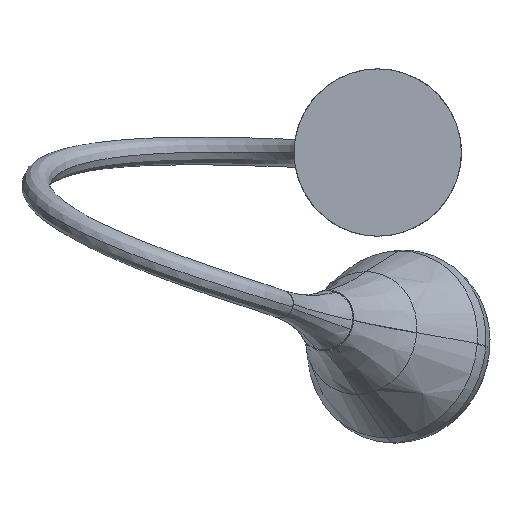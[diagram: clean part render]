
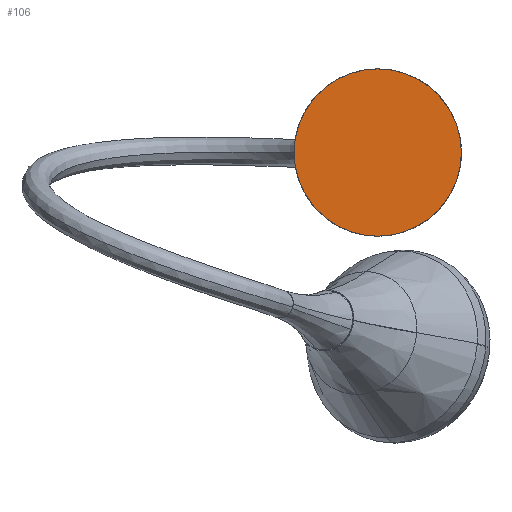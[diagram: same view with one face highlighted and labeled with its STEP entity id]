
A CAD part, top view. The second image highlights one B-rep face of the part: STEP entity #106.
In plain terms, the highlighted planar face has unit normal (0, 0, 1).
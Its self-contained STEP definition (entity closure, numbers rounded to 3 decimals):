
#106=ADVANCED_FACE('',(#210),#1472,.T.);
#210=FACE_OUTER_BOUND('',#318,.T.);
#318=EDGE_LOOP('',(#666,#667,#668,#669));
#666=ORIENTED_EDGE('',*,*,#962,.F.);
#667=ORIENTED_EDGE('',*,*,#963,.F.);
#668=ORIENTED_EDGE('',*,*,#957,.F.);
#669=ORIENTED_EDGE('',*,*,#960,.F.);
#957=EDGE_CURVE('',#1356,#1357,#1207,.T.);
#960=EDGE_CURVE('',#1358,#1356,#1210,.T.);
#962=EDGE_CURVE('',#1359,#1358,#1212,.T.);
#963=EDGE_CURVE('',#1357,#1359,#1213,.T.);
#1207=(
BOUNDED_CURVE()
B_SPLINE_CURVE(2,(#6570,#6571,#6572),.UNSPECIFIED.,.F.,.F.)
B_SPLINE_CURVE_WITH_KNOTS((3,3),(0.,180.),.UNSPECIFIED.)
CURVE()
GEOMETRIC_REPRESENTATION_ITEM()
RATIONAL_B_SPLINE_CURVE((1.,0.707,1.))
REPRESENTATION_ITEM('')
);
#1210=(
BOUNDED_CURVE()
B_SPLINE_CURVE(2,(#6577,#6578,#6579),.UNSPECIFIED.,.F.,.F.)
B_SPLINE_CURVE_WITH_KNOTS((3,3),(0.,180.),.UNSPECIFIED.)
CURVE()
GEOMETRIC_REPRESENTATION_ITEM()
RATIONAL_B_SPLINE_CURVE((1.,0.707,1.))
REPRESENTATION_ITEM('')
);
#1212=(
BOUNDED_CURVE()
B_SPLINE_CURVE(2,(#6582,#6583,#6584),.UNSPECIFIED.,.F.,.F.)
B_SPLINE_CURVE_WITH_KNOTS((3,3),(0.,180.),.UNSPECIFIED.)
CURVE()
GEOMETRIC_REPRESENTATION_ITEM()
RATIONAL_B_SPLINE_CURVE((1.,0.707,1.))
REPRESENTATION_ITEM('')
);
#1213=(
BOUNDED_CURVE()
B_SPLINE_CURVE(2,(#6585,#6586,#6587),.UNSPECIFIED.,.F.,.F.)
B_SPLINE_CURVE_WITH_KNOTS((3,3),(0.,180.),.UNSPECIFIED.)
CURVE()
GEOMETRIC_REPRESENTATION_ITEM()
RATIONAL_B_SPLINE_CURVE((1.,0.707,1.))
REPRESENTATION_ITEM('')
);
#1356=VERTEX_POINT('',#6380);
#1357=VERTEX_POINT('',#6381);
#1358=VERTEX_POINT('',#6382);
#1359=VERTEX_POINT('',#6383);
#1472=PLANE('',#1615);
#1615=AXIS2_PLACEMENT_3D('',#6351,#1658,$);
#1658=DIRECTION('',(0.,0.,1.));
#6351=CARTESIAN_POINT('',(-109.2,390.8,0.));
#6380=CARTESIAN_POINT('',(0.,590.,0.));
#6381=CARTESIAN_POINT('',(90.,500.,0.));
#6382=CARTESIAN_POINT('',(-90.,500.,0.));
#6383=CARTESIAN_POINT('',(0.,410.,0.));
#6570=CARTESIAN_POINT('',(0.,590.,0.));
#6571=CARTESIAN_POINT('',(90.,590.,0.));
#6572=CARTESIAN_POINT('',(90.,500.,0.));
#6577=CARTESIAN_POINT('',(-90.,500.,0.));
#6578=CARTESIAN_POINT('',(-90.,590.,0.));
#6579=CARTESIAN_POINT('',(0.,590.,0.));
#6582=CARTESIAN_POINT('',(0.,410.,0.));
#6583=CARTESIAN_POINT('',(-90.,410.,0.));
#6584=CARTESIAN_POINT('',(-90.,500.,0.));
#6585=CARTESIAN_POINT('',(90.,500.,0.));
#6586=CARTESIAN_POINT('',(90.,410.,0.));
#6587=CARTESIAN_POINT('',(0.,410.,0.));
